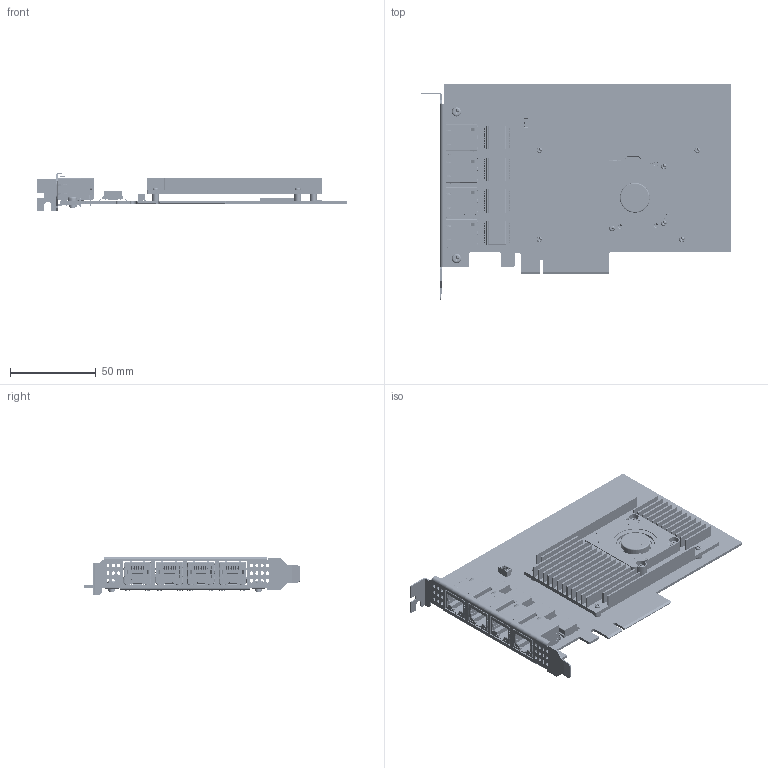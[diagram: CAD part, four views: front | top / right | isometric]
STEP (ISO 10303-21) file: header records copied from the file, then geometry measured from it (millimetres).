
FILE_DESCRIPTION((''),'2;1');
FILE_NAME('DE-20-049789_ASM','2026-03-13T17:03:19',('wuxin28'),(''),'CREO PARAMETRIC BY PTC INC, 2020044','CREO PARAMETRIC BY PTC INC, 2020044','');
FILE_SCHEMA(('CONFIG_CONTROL_DESIGN'));
Products named in the file (18): DE-11-032820; PCB-MV-4WKJB-XIN; ST-D4X4D2X1-F2X3-CU; 101306305; 101107347; 101107753; 100500418; 101302479; PCB-MV-20658-R1_0_ASM; DE-15-000947; YB4007-CS-00_1; YB4007-GAI_5__2; DE-20-050020_ASM; DE-19-014530; 101800719_ASM; SC-P0M3X4-GB818; SC-PM2X4_5NL-B; DE-20-049789_ASM
Assembly tree (33 placements, depth 4):
  DE-20-049789_ASM
    DE-11-032820
    PCB-MV-20658-R1_0_ASM
      PCB-MV-4WKJB-XIN
      ST-D4X4D2X1-F2X3-CU  x4
      101306305  x4
      101107347
      101107753
      100500418  x4
      101302479
    DE-15-000947
    101800719_ASM
      DE-20-050020_ASM
        YB4007-CS-00_1
        YB4007-GAI_5__2
      DE-19-014530
    SC-P0M3X4-GB818  x2
    SC-PM2X4_5NL-B  x7
Bounding box: 180.97 x 126.31 x 22.39 mm (x, y, z)
Volume: 59285.4 mm3; surface area: 111771.7 mm2
Topology: 103 solids, 156 shells, 13755 faces, 38589 edges, 25144 vertices
Faces by surface type: plane 9744, cylinder 3419, bspline 418, cone 113, torus 60, extrusion 1
Entity records: 152780 total; most frequent: CARTESIAN_POINT 31794, ORIENTED_EDGE 25664, DIRECTION 24377, EDGE_CURVE 13011, VECTOR 9935, LINE 9934, VERTEX_POINT 8563, AXIS2_PLACEMENT_3D 7221
